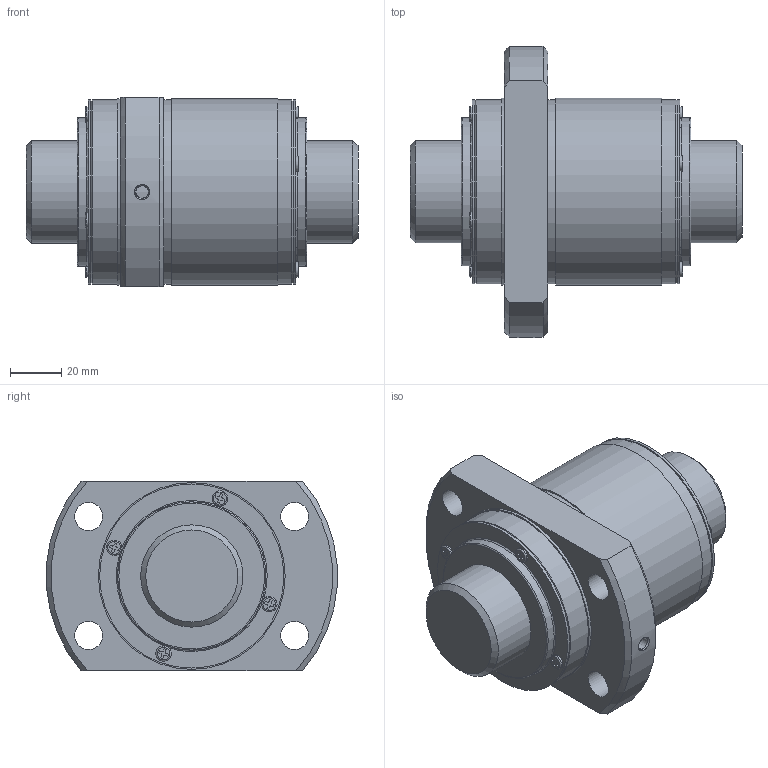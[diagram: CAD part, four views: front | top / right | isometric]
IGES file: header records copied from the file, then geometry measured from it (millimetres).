
Start section: Data from Parasolid IGES Translator 26.0.171, Copyright(c) 2006 Siemens PLM Software. All Rights Reserved.
Global section: file name: WTF4080-2ZZ+129.8LC7T_000_rev.igs; native system: By Siemens PLM Incorporated; preprocessor: XPlus GENERIC/IGES 26.0.171; author: Noname; organization: Noname; date: 20250611.064119; units: millimetre
Bounding box: 129.8 x 113.82 x 74 mm (x, y, z)
Surface area: 67115.2 mm2 (no closed solid volume)
Topology: 0 solids, 0 shells, 214 faces, 1134 edges, 1076 vertices
Faces by surface type: extrusion 127, revolution 87
